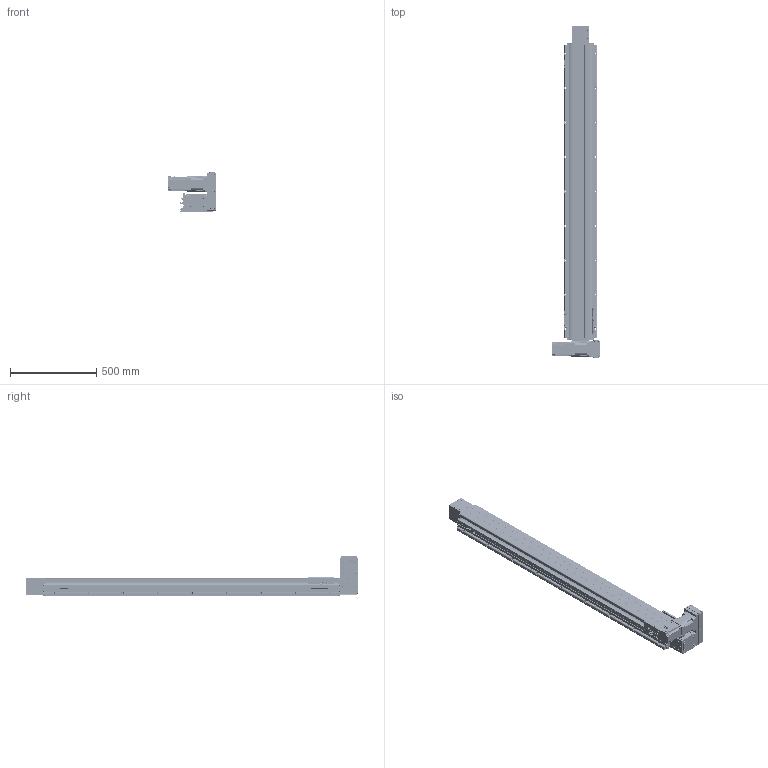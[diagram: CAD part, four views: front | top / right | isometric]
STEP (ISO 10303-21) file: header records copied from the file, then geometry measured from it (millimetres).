
FILE_DESCRIPTION(/* description */ (''),/* implementation_level */ '2;1');
FILE_NAME(/* name */ '\\192.168.0.160\disk1\HAN SHIN Master\B-설계부문\C-표준\B-2024년\BC02-표준도면\+로봇 개선표준도면\홈페이지 표준 도면\홈페이지 최종 작업 폴더\3D\HSB\HSB160\UR\HSB160-UR7G-N-1500-L.stp',/* time_stamp */ '2025-06-19T10:10:21+09:00',/* author */ ('user'),/* organization */ (''),/* preprocessor_version */ 'ST-DEVELOPER v18.1',/* originating_system */ 'Autodesk Inventor 2022',/* authorisation */ '');
FILE_SCHEMA (('AUTOMOTIVE_DESIGN { 1 0 10303 214 3 1 1 }'));
Products named in the file (42): HSB160-UR7G-N-0500-L; BASE; HSB160 TABLE (TEST); FORNT HOUSUNG-1 (Connecting); UPCOVER; HSB160 COVER-1; REAR HOUSUNG-1---; HSB160 REAR SHAFT-2; REAR SHAFT--2; 6004ZZ; 6004ZZ Outer ring; 6004ZZ Shield1; 6004ZZ Inner ring; 6004ZZ Ball; 6004ZZ Shield2; STOPPER3; TENSION PLATE; HSB160 ARC COVER; hsr_ftht_A-M6F_grease_nipple_joint; NIPPLE CAP(신규); SIDE COVER; HSB160 SHAFT-1; HSB160 END COVER; HR120 SENSOR DOG; SENSOR BRK(EE-SX674A); EE_SX674A; 6206ZZ; 6206ZZ Outer ring; 6206ZZ Shield1; 6206ZZ Inner ring; 6206ZZ Ball; 6206ZZ Shield2; HSB160 BEARING COVER_대칭도; hg-kr73_; PGX90-H-1_3; U MOTOR PLATE ASSY; HSB160 U MOTOR PLATE; 750W MOTOR PLATE; HR160 400W LR BELT COVER; HR180 ACRYL COVER - 1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
Assembly tree (87 placements, depth 3):
  HSB160-UR7G-N-0500-L
    BASE
    HSB160 TABLE (TEST)
    FORNT HOUSUNG-1 (Connecting)
    6206ZZ  x2
      6206ZZ Outer ring
      6206ZZ Shield1
      6206ZZ Inner ring
      6206ZZ Ball
      6206ZZ Shield2
    UPCOVER
    HSB160 COVER-1  x2
    REAR HOUSUNG-1---
    6004ZZ  x2
      6004ZZ Outer ring
      6004ZZ Shield1
      6004ZZ Inner ring
      6004ZZ Ball
      6004ZZ Shield2
    HSB160 REAR SHAFT-2
    REAR SHAFT--2
    TENSION PLATE  x2
    HSB160 ARC COVER  x4
    STOPPER3  x4
    SIDE COVER  x2
    hsr_ftht_A-M6F_grease_nipple_joint  x4
    NIPPLE CAP(신규)  x4
    HSB160 SHAFT-1
    HSB160 END COVER
    SENSOR BRK(EE-SX674A)  x3
    EE_SX674A  x3
    HR120 SENSOR DOG
    HSB160 BEARING COVER_대칭도
    hg-kr73_
    PGX90-H-1_3
    U MOTOR PLATE ASSY
      HSB160 U MOTOR PLATE
      750W MOTOR PLATE
      HR160 400W LR BELT COVER
      HR180 ACRYL COVER - 1_2  x2
      HR180 ACRYL COVER - 1
      HR180 ACRYL COVER - 1_1
Bounding box: 284.5 x 1928.5 x 230.5 mm (x, y, z)
Volume: 12155470.2 mm3; surface area: 3101184.6 mm2
Topology: 131 solids, 133 shells, 6490 faces, 17807 edges, 11708 vertices
Faces by surface type: plane 4536, cylinder 1405, cone 377, sphere 88, torus 59, bspline 25
Full cylindrical faces by diameter (mm): 2.013 x2, 2.459 x54, 3 x20, 3.242 x50, 3.4 x22, 3.5 x6, 4.134 x18, 4.2 x4, 4.5 x40, 4.917 x76, 5 x44, 5.1 x1, 5.5 x25, 5.6 x4, 5.9 x4, 6 x21, 6.5 x9, 6.6 x18, 6.8 x9, 7 x32, 7.6 x4, 8 x5, 8.376 x18, 8.433 x2, 9 x4, 9.5 x31, 10 x5, 11 x28, 15 x8, 18.5 x2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
Entity records: 118416 total; most frequent: CARTESIAN_POINT 22433, DIRECTION 19674, ORIENTED_EDGE 19078, EDGE_CURVE 9539, AXIS2_PLACEMENT_3D 6684, VERTEX_POINT 6309, LINE 6306, VECTOR 6306
